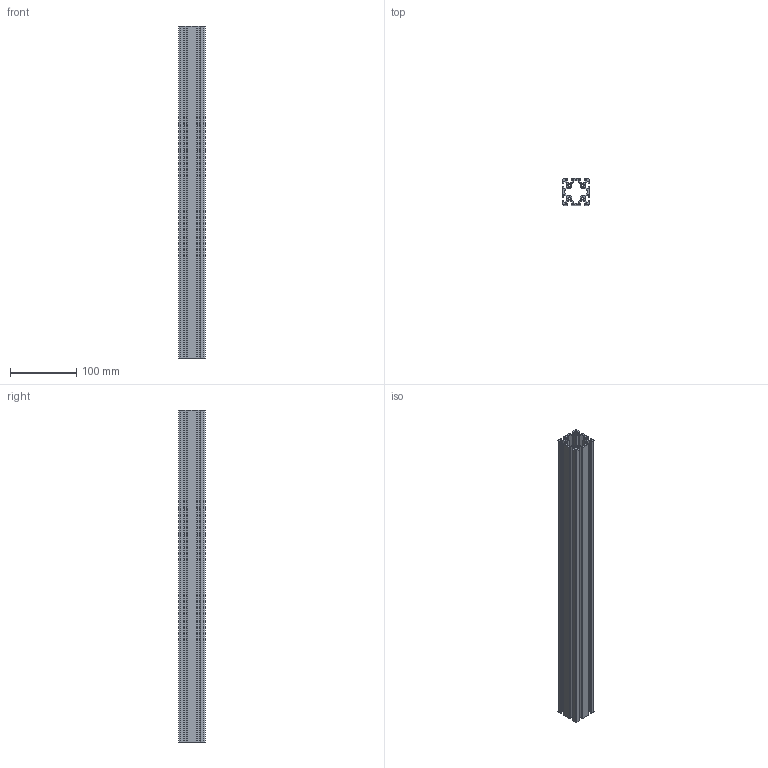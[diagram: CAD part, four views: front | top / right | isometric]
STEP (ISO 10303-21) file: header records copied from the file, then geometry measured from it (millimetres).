
FILE_DESCRIPTION (( 'STEP AP203' ), '1' );
FILE_NAME ('M ATP I5 4040.STEP', '2012-06-04T09:07:21', ( 'alle' ), ( 'Hewlett-Packard Company' ), 'SwSTEP 2.0', 'SolidWorks 2011', '' );
FILE_SCHEMA (( 'CONFIG_CONTROL_DESIGN' ));
Length unit declared in the file: millimetre
Products named in the file (1): M ATP I5 4040
Bounding box: 40 x 40 x 500 mm (x, y, z)
Volume: 254991.2 mm3; surface area: 241236.5 mm2
Topology: 1 solids, 1 shells, 183 faces, 543 edges, 362 vertices
Faces by surface type: cylinder 93, plane 90
Entity records: 6280 total; most frequent: DIRECTION 1097, CARTESIAN_POINT 1089, ORIENTED_EDGE 1086, EDGE_CURVE 543, AXIS2_PLACEMENT_3D 370, VERTEX_POINT 362, VECTOR 357, LINE 357
